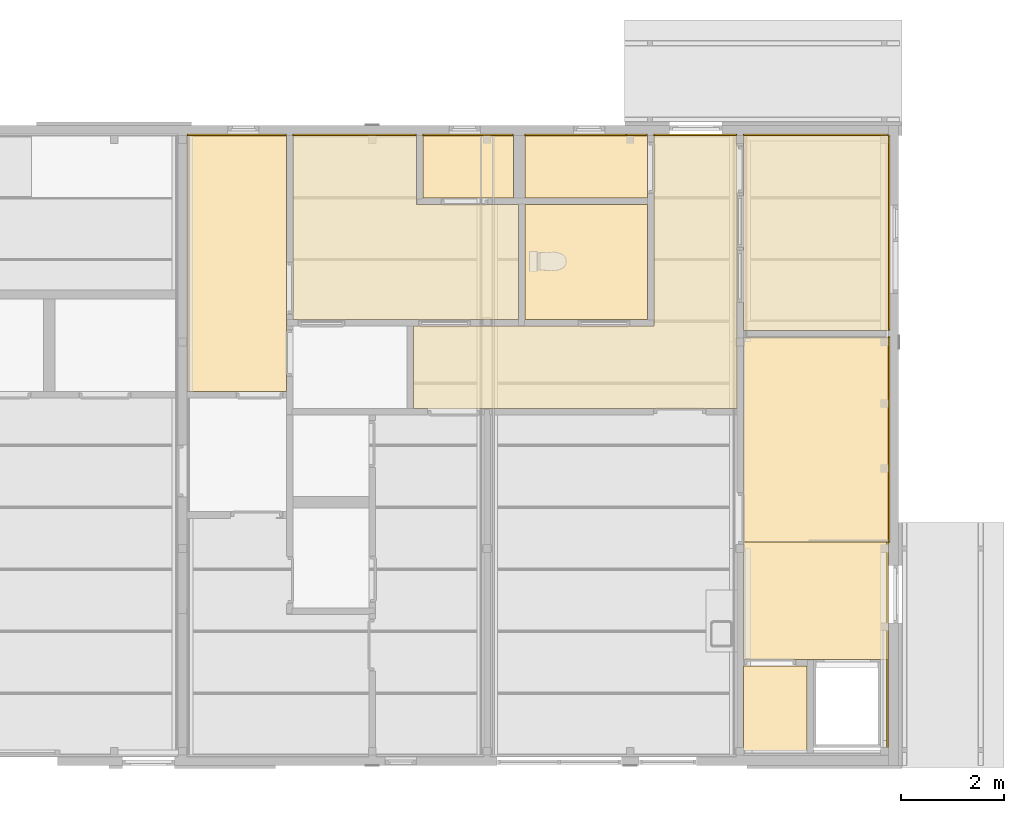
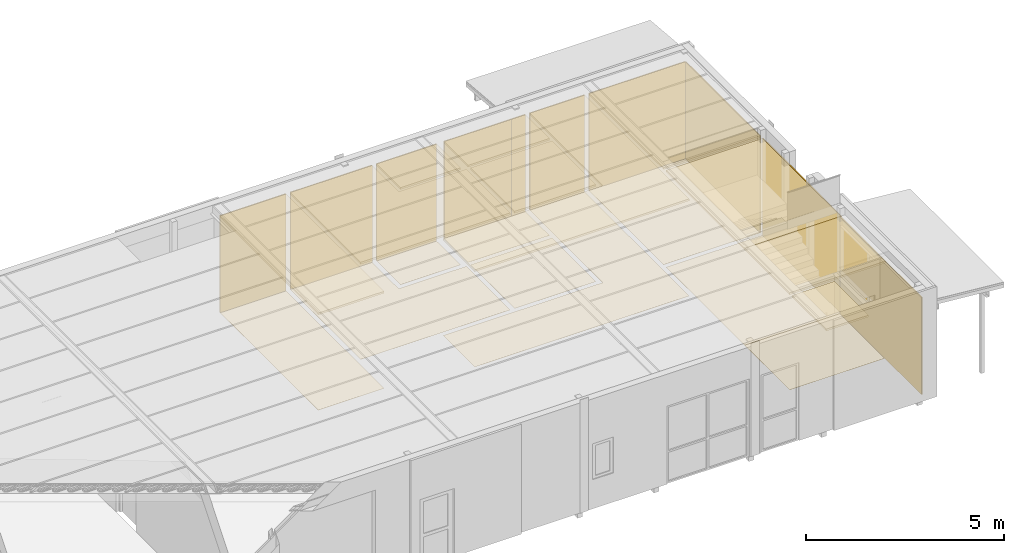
# One storey, part 40 of 45: 29 coverings.
"""IFC2X3 building model written with IfcOpenShell, lengths in millimetres."""

import ifcopenshell
import ifcopenshell.guid

model = None  # the IFC model being written
_history = None  # IfcOwnerHistory: only IFC2X3 demands one
_inside = {}  # id of a spatial element -> (the spatial element, [elements in it])
_under = {}  # id of a project, library or spatial element -> (it, [spatial elements below it])
_declared = {}  # id of a project -> (the project, [libraries it declares])
_typed = {}  # id of a type object -> (the type object, [elements of that type])
_made_of = {}  # id of a material, layer set ... -> (it, [elements and type objects made of it])


def new_model(schema):
    """Start an empty IFC model of exactly this schema.

    Asked for "IFC4X3", IfcOpenShell would pick the latest addendum, in which some entities
    have other attributes; the version numbers below select the first issue.
    IFC2X3 requires an IfcOwnerHistory on every rooted entity: one is made here for all.
    """
    global model, _history
    if schema == "IFC4X3":
        model = ifcopenshell.file(schema_version=(4, 3, 0, 0))
    else:
        model = ifcopenshell.file(schema=schema)
    _inside.clear()
    _under.clear()
    _declared.clear()
    _typed.clear()
    _made_of.clear()
    _history = None
    if model.schema == "IFC2X3":
        org = make("IfcOrganization", Name="unknown")
        user = make(
            "IfcPersonAndOrganization",
            ThePerson=make("IfcPerson", FamilyName="unknown"),
            TheOrganization=org,
        )
        app = make(
            "IfcApplication",
            ApplicationDeveloper=org,
            Version="unknown",
            ApplicationFullName="unknown",
            ApplicationIdentifier="unknown",
        )
        _history = make(
            "IfcOwnerHistory",
            OwningUser=user,
            OwningApplication=app,
            ChangeAction="ADDED",
            CreationDate=0,
        )
    return model


def make(cls, **values):
    """One entity of the class cls with the attributes given. An attribute that is None is left unset."""
    return model.create_entity(
        cls, **{name: value for name, value in values.items() if value is not None}
    )


def entity(cls, *values):
    """Any entity or typed value of the class cls, its attributes in the order of the schema. None: left unset."""
    e = model.create_entity(cls)
    for i, value in enumerate(values):
        if value is not None:
            e[i] = value
    return e


def rooted(cls, **values):
    """An entity with a GlobalId (a new one), such as an element, a storey or a relation."""
    return make(cls, GlobalId=ifcopenshell.guid.new(), OwnerHistory=_history, **values)


def si_unit(unit_type, name, prefix=None):
    """IfcSIUnit, for example si_unit("LENGTHUNIT", "METRE", prefix="MILLI")."""
    return make("IfcSIUnit", UnitType=unit_type, Prefix=prefix, Name=name)


def converted_unit(unit_type, name, factor, base, dimensions=None, offset=None):
    """IfcConversionBasedUnit, such as the inch: factor (a typed value) times the base unit."""
    return make(
        "IfcConversionBasedUnit"
        if offset is None
        else "IfcConversionBasedUnitWithOffset",
        ConversionOffset=offset,
        Dimensions=None
        if dimensions is None
        else entity("IfcDimensionalExponents", *dimensions),
        UnitType=unit_type,
        Name=name,
        ConversionFactor=make(
            "IfcMeasureWithUnit", ValueComponent=factor, UnitComponent=base
        ),
    )


def assignment(units):
    """IfcUnitAssignment: the units of a project."""
    return None if units is None else make("IfcUnitAssignment", Units=units)


def point(xyz):
    """IfcCartesianPoint."""
    return None if xyz is None else make("IfcCartesianPoint", Coordinates=xyz)


def direction(xyz):
    """IfcDirection."""
    return None if xyz is None else make("IfcDirection", DirectionRatios=xyz)


def frame(location, z_axis=None, x_axis=None):
    """IfcAxis2Placement3D, a coordinate frame: its origin and axes. An axis left out is left unset."""
    return make(
        "IfcAxis2Placement3D",
        Location=point(location),
        Axis=direction(z_axis),
        RefDirection=direction(x_axis),
    )


def frame_2d(location, x_axis=None):
    """IfcAxis2Placement2D, a coordinate frame in the plane: its origin and x axis."""
    return make(
        "IfcAxis2Placement2D", Location=point(location), RefDirection=direction(x_axis)
    )


def origin():
    """The frame at (0, 0, 0) with its axes left unset."""
    return frame((0.0, 0.0, 0.0))


def origin_with_axes():
    """The frame at (0, 0, 0) with the z axis (0, 0, 1) and the x axis (1, 0, 0) written out."""
    return frame((0.0, 0.0, 0.0), z_axis=(0.0, 0.0, 1.0), x_axis=(1.0, 0.0, 0.0))


def place(relative_to, where):
    """IfcLocalPlacement: puts the frame where relative to a parent placement (None: the world)."""
    return make(
        "IfcLocalPlacement", PlacementRelTo=relative_to, RelativePlacement=where
    )


def context(
    kind, dimensions, precision=None, world=None, true_north=None, identifier=None
):
    """IfcGeometricRepresentationContext, for example the 3D "Model" context."""
    return make(
        "IfcGeometricRepresentationContext",
        ContextIdentifier=identifier,
        ContextType=kind,
        CoordinateSpaceDimension=dimensions,
        Precision=precision,
        WorldCoordinateSystem=world,
        TrueNorth=true_north,
    )


def subcontext(parent, identifier, kind, view, scale=None):
    """IfcGeometricRepresentationSubContext, for example "Body" below "Model"."""
    return make(
        "IfcGeometricRepresentationSubContext",
        ContextIdentifier=identifier,
        ContextType=kind,
        ParentContext=parent,
        TargetScale=scale,
        TargetView=view,
    )


def project(units=None, contexts=None):
    """IfcProject with its units and contexts."""
    return rooted(
        "IfcProject",
        Name="project",
        RepresentationContexts=contexts,
        UnitsInContext=assignment(units),
    )


def spatial(cls, under=None, at=None, **own):
    """A site, building, storey or space (cls), placed at a placement, below another one or the project."""
    s = rooted(cls, ObjectPlacement=at, **own)
    if under is not None:
        _under.setdefault(under.id(), (under, []))[1].append(s)
    return s


def polyline(points):
    """IfcPolyline through the points."""
    return make("IfcPolyline", Points=[point(p) for p in points])


def profile(cls, at=None, kind="AREA", **sizes):
    """A parametric profile (cls). Its sizes go by their IFC names, for example OverallWidth=200.0."""
    return make(cls, ProfileType=kind, Position=at, **sizes)


def rectangle(**sizes):
    """IfcRectangleProfileDef."""
    return profile("IfcRectangleProfileDef", **sizes)


def outline(outer, holes=None, kind="AREA"):
    """IfcArbitraryClosedProfileDef: a profile drawn as a closed curve; with holes, ...WithVoids."""
    if holes is None:
        return make("IfcArbitraryClosedProfileDef", ProfileType=kind, OuterCurve=outer)
    return make(
        "IfcArbitraryProfileDefWithVoids",
        ProfileType=kind,
        OuterCurve=outer,
        InnerCurves=holes,
    )


def extrude(swept, where, along, depth):
    """IfcExtrudedAreaSolid: the profile swept, set in the frame where, extruded along a direction by depth."""
    return make(
        "IfcExtrudedAreaSolid",
        SweptArea=swept,
        Position=where,
        ExtrudedDirection=direction(along),
        Depth=depth,
    )


def shape(context_of_items, identifier, shape_type, items):
    """IfcShapeRepresentation: the items that make up one representation, for example the "Body"."""
    return make(
        "IfcShapeRepresentation",
        ContextOfItems=context_of_items,
        RepresentationIdentifier=identifier,
        RepresentationType=shape_type,
        Items=items,
    )


def material(Name=None, Category=None):
    """IfcMaterial."""
    return make("IfcMaterial", Name=Name, Category=Category)


def layer(
    of_material, thickness, ventilated=None, Name=None, Category=None, Priority=None
):
    """IfcMaterialLayer: one layer of a wall or slab, of a material (None: an air gap)."""
    return make(
        "IfcMaterialLayer",
        Material=of_material,
        LayerThickness=thickness,
        IsVentilated=ventilated,
        Name=Name,
        Category=Category,
        Priority=Priority,
    )


def layer_set(layers, Name=None):
    """IfcMaterialLayerSet."""
    return make("IfcMaterialLayerSet", MaterialLayers=layers, LayerSetName=Name)


def layer_usage(for_layer_set, set_direction, sense, offset, extent=None):
    """IfcMaterialLayerSetUsage: how a layer set lies in its element."""
    return make(
        "IfcMaterialLayerSetUsage",
        ForLayerSet=for_layer_set,
        LayerSetDirection=set_direction,
        DirectionSense=sense,
        OffsetFromReferenceLine=offset,
        ReferenceExtent=extent,
    )


def made_of(thing, what):
    """Note that an element or type object is made of a material, layer set ...; save() writes the relation."""
    if what is not None:
        _made_of.setdefault(what.id(), (what, []))[1].append(thing)
    return thing


def element(
    cls,
    number,
    at=None,
    inside=None,
    cuts=None,
    type_object=None,
    material=None,
    context=None,
    identifier="Body",
    shape_type=None,
    held_by="IfcProductDefinitionShape",
    body=None,
    shapes=None,
    **own,
):
    """One element of the class cls, such as IfcWall. Its Tag is "e" and its number.

    at: its placement. inside: the storey or other place that contains it. cuts: it is an
    opening in that element (IfcRelVoidsElement). A single representation is given by context,
    identifier, shape_type and body (its items); several are given by shapes. held_by: the class
    of the entity that holds the representations. save() writes the other relations.
    """
    e = rooted(cls, Tag="e%d" % number, ObjectPlacement=at, **own)
    if body is not None:
        shapes = [shape(context, identifier, shape_type, body)]
    if shapes is not None:
        e.Representation = make(held_by, Representations=shapes)
    if inside is not None:
        _inside.setdefault(inside.id(), (inside, []))[1].append(e)
    if cuts is not None:
        rooted(
            "IfcRelVoidsElement", RelatingBuildingElement=cuts, RelatedOpeningElement=e
        )
    if type_object is not None:
        _typed.setdefault(type_object.id(), (type_object, []))[1].append(e)
    return made_of(e, material)


def aggregate(whole, parts):
    """IfcRelAggregates: a whole, such as a stair, and the parts it consists of."""
    return rooted("IfcRelAggregates", RelatingObject=whole, RelatedObjects=parts)


def save(model, path):
    """Write the relations noted so far, then the file.

    IfcRelAggregates (storeys below a building ...), IfcRelContainedInSpatialStructure (elements
    in a storey), IfcRelDefinesByType, IfcRelAssociatesMaterial and IfcRelDeclares: one each for
    every whole, place, type object, material and project.
    """
    for whole, parts in _under.values():
        aggregate(whole, parts)
    for where, things in _inside.values():
        rooted(
            "IfcRelContainedInSpatialStructure",
            RelatedElements=things,
            RelatingStructure=where,
        )
    for kind, things in _typed.values():
        rooted("IfcRelDefinesByType", RelatedObjects=things, RelatingType=kind)
    for what, things in _made_of.values():
        rooted("IfcRelAssociatesMaterial", RelatedObjects=things, RelatingMaterial=what)
    for by, libraries in _declared.values():
        rooted("IfcRelDeclares", RelatingContext=by, RelatedDefinitions=libraries)
    model.write(path)


model = new_model("IFC2X3")

# Units and contexts
model_context = context("Model", 3, precision=1e-05, world=origin())
plan_context = context("Plan", 3, precision=1e-05, world=origin())
body_context = subcontext(model_context, "Body", "Model", "MODEL_VIEW")
ifc_project = project(units=[si_unit("LENGTHUNIT", "METRE", prefix="MILLI"), converted_unit("PLANEANGLEUNIT", "DEGREE", entity("IfcPlaneAngleMeasure", 0.0174532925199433), si_unit("PLANEANGLEUNIT", "RADIAN"), dimensions=[0, 0, 0, 0, 0, 0, 0]), si_unit("AREAUNIT", "SQUARE_METRE"), si_unit("VOLUMEUNIT", "CUBIC_METRE")], contexts=[model_context, plan_context])

# Building, storey, space
building_placement = place(None, origin())
building = spatial("IfcBuilding", under=ifc_project, at=building_placement, Name="HEKF Administrasjonbygg", CompositionType="ELEMENT")
storey_placement = place(building_placement, frame((0.0, 0.0, 6500.0), z_axis=(0.0, 0.0, 1.0), x_axis=(1.0, 0.0, 0.0)))
storey = spatial("IfcBuildingStorey", under=building, at=storey_placement, Name="Plan 1", CompositionType="ELEMENT", Elevation=6500.0)
space_1_placement = place(storey_placement, frame((27188.53680645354, -3774.000000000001, 0.0), z_axis=(0.0, 0.0, 1.0), x_axis=(1.0, 0.0, 0.0)))
space_1 = spatial("IfcSpace", under=storey, at=space_1_placement, Name="101", CompositionType="ELEMENT", InteriorOrExteriorSpace="INTERNAL")

# Coverings
ifc_material_1 = material(Name="Ubehandlet SW")
ifc_layer_1 = layer(ifc_material_1, 30.0)
ifc_layer_set_1 = layer_set([ifc_layer_1])
ifc_layer_usage_1 = layer_usage(ifc_layer_set_1, "AXIS3", "POSITIVE", 0.0)
covering_1_placement = place(space_1_placement, frame((2811.463193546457, 3774.000000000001, 0.0), z_axis=(0.0, 0.0, 1.0), x_axis=(0.0, -1.0, 0.0)))
element("IfcCovering", 1, at=covering_1_placement, inside=space_1, material=ifc_layer_usage_1, PredefinedType="CLADDING", context=body_context, shape_type="SweptSolid", body=[
    extrude(rectangle(XDim=3000.0, YDim=3774.000000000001, at=frame_2d((-1887.000000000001, 1500.0), x_axis=(0.0, 1.0))), frame((3774.000000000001, 0.0, 3000.0), z_axis=(0.0, 1.0, 0.0), x_axis=(1.0, 0.0, 0.0)), (0.0, 0.0, 1.0), 30.0),
])
ifc_material_2 = material(Name="Ubehandlet SW")
ifc_layer_2 = layer(ifc_material_2, 30.0)
ifc_layer_set_2 = layer_set([ifc_layer_2])
ifc_layer_usage_2 = layer_usage(ifc_layer_set_2, "AXIS3", "POSITIVE", 0.0)
covering_2_placement = place(space_1_placement, frame((0.0, 3774.000000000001, 0.0), z_axis=(0.0, 0.0, 1.0), x_axis=(1.0, 0.0, 0.0)))
element("IfcCovering", 2, at=covering_2_placement, inside=space_1, material=ifc_layer_usage_2, PredefinedType="CLADDING", context=body_context, shape_type="SweptSolid", body=[
    extrude(rectangle(XDim=3000.0, YDim=2811.463193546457, at=frame_2d((-1405.731596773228, 1500.0), x_axis=(0.0, 1.0))), frame((2811.463193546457, 0.0, 3000.0), z_axis=(0.0, 1.0, 0.0), x_axis=(1.0, 0.0, 0.0)), (0.0, 0.0, 1.0), 30.0),
])
ifc_material_3 = material(Name="Banebelegg, acustikk")
ifc_layer_3 = layer(ifc_material_3, 3.0)
ifc_layer_set_3 = layer_set([ifc_layer_3])
ifc_layer_usage_3 = layer_usage(ifc_layer_set_3, "AXIS3", "POSITIVE", 0.0)
covering_3_placement = place(space_1_placement, origin_with_axes())
element("IfcCovering", 3, at=covering_3_placement, inside=space_1, material=ifc_layer_usage_3, PredefinedType="FLOORING", context=body_context, shape_type="SweptSolid", body=[
    extrude(rectangle(XDim=2811.463193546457, YDim=3774.000000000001, at=frame_2d((-1405.731596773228, -1887.000000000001), x_axis=(-1.0, 0.0))), frame((2811.463193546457, 3774.000000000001, 0.0), z_axis=(0.0, 0.0, 1.0), x_axis=(1.0, 0.0, 0.0)), (0.0, 0.0, 1.0), 3.0),
])
ifc_material_4 = material(Name="Støvbinding")
ifc_layer_4 = layer(ifc_material_4, 30.0)
ifc_material_5 = material(Name="Systemhimling")
ifc_layer_5 = layer(ifc_material_5, 30.0)
ifc_layer_set_4 = layer_set([ifc_layer_4, ifc_layer_5])
ifc_layer_usage_4 = layer_usage(ifc_layer_set_4, "AXIS3", "POSITIVE", 0.0)
covering_4_placement = place(space_1_placement, frame((1405.731596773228, 1887.000000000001, 3000.0), z_axis=(0.0, 0.0, -1.0), x_axis=(1.0, 0.0, 0.0)))
element("IfcCovering", 4, at=covering_4_placement, inside=space_1, material=ifc_layer_usage_4, PredefinedType="CEILING", context=body_context, shape_type="SweptSolid", body=[
    extrude(rectangle(XDim=2811.463193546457, YDim=3774.000000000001, at=frame_2d((1405.731596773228, 1887.000000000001), x_axis=(1.0, 0.0))), frame((-1405.731596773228, -1887.000000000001, 0.0), z_axis=(0.0, 0.0, 1.0), x_axis=(1.0, 0.0, 0.0)), (0.0, 0.0, 1.0), 60.0),
])

# Space
space_2_placement = place(storey_placement, frame((22958.53680645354, -1211.0, 0.0), z_axis=(0.0, 0.0, 1.0), x_axis=(1.0, 0.0, 0.0)))
space_2 = spatial("IfcSpace", under=storey, at=space_2_placement, Name="107", CompositionType="ELEMENT", InteriorOrExteriorSpace="INTERNAL")

# Coverings
ifc_material_6 = material(Name="Ubehandlet SW")
ifc_layer_6 = layer(ifc_material_6, 30.0)
ifc_layer_set_5 = layer_set([ifc_layer_6])
ifc_layer_usage_5 = layer_usage(ifc_layer_set_5, "AXIS3", "POSITIVE", 0.0)
covering_5_placement = place(space_2_placement, frame((0.0, 1211.0, 0.0), z_axis=(0.0, 0.0, 1.0), x_axis=(1.0, 2.312513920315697e-16, 0.0)))
element("IfcCovering", 5, at=covering_5_placement, inside=space_2, material=ifc_layer_usage_5, PredefinedType="CLADDING", context=body_context, shape_type="SweptSolid", body=[
    extrude(rectangle(XDim=3000.0, YDim=1966.463193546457, at=frame_2d((-983.2315967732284, 1500.0), x_axis=(0.0, 1.0))), frame((1966.463193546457, 0.0, 3000.0), z_axis=(0.0, 1.0, 0.0), x_axis=(1.0, 0.0, 0.0)), (0.0, 0.0, 1.0), 30.0),
])
ifc_material_7 = material(Name="Ubehandlet SW")
ifc_layer_7 = layer(ifc_material_7, 30.0)
ifc_layer_set_6 = layer_set([ifc_layer_7])
ifc_layer_usage_6 = layer_usage(ifc_layer_set_6, "AXIS3", "POSITIVE", 0.0)
covering_6_placement = place(space_2_placement, frame((1966.463193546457, 1211.000000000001, 0.0), z_axis=(0.0, 0.0, 1.0), x_axis=(1.0, -1.115843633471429e-15, 0.0)))
element("IfcCovering", 6, at=covering_6_placement, inside=space_2, material=ifc_layer_usage_6, PredefinedType="CLADDING", context=body_context, shape_type="SweptSolid", body=[
    extrude(rectangle(XDim=3000.0, YDim=407.5368064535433, at=frame_2d((-203.7684032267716, 1500.0), x_axis=(0.0, 1.0))), frame((407.5368064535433, 0.0, 3000.0), z_axis=(0.0, 1.0, 0.0), x_axis=(1.0, 0.0, 0.0)), (0.0, 0.0, 1.0), 30.0),
])
ifc_material_8 = material(Name="våtromsbelegg m oppkant")
ifc_layer_8 = layer(ifc_material_8, 3.0)
ifc_layer_set_7 = layer_set([ifc_layer_8])
ifc_layer_usage_7 = layer_usage(ifc_layer_set_7, "AXIS3", "POSITIVE", 0.0)
covering_7_placement = place(space_2_placement, origin_with_axes())
element("IfcCovering", 7, at=covering_7_placement, inside=space_2, material=ifc_layer_usage_7, PredefinedType="FLOORING", context=body_context, shape_type="SweptSolid", body=[
    extrude(rectangle(XDim=2374.0, YDim=1211.0, at=frame_2d((-1187.0, -605.5), x_axis=(-1.0, 0.0))), frame((2374.0, 1211.0, 0.0), z_axis=(0.0, 0.0, 1.0), x_axis=(1.0, 0.0, 0.0)), (0.0, 0.0, 1.0), 3.0),
])
ifc_material_9 = material(Name="støvbinding")
ifc_layer_9 = layer(ifc_material_9, 30.0)
ifc_material_10 = material(Name="systemhimling")
ifc_layer_10 = layer(ifc_material_10, 30.0)
ifc_layer_set_8 = layer_set([ifc_layer_9, ifc_layer_10])
ifc_layer_usage_8 = layer_usage(ifc_layer_set_8, "AXIS3", "POSITIVE", 0.0)
covering_8_placement = place(space_2_placement, frame((1187.0, 605.5, 3000.0), z_axis=(0.0, 0.0, -1.0), x_axis=(1.0, 0.0, 0.0)))
element("IfcCovering", 8, at=covering_8_placement, inside=space_2, material=ifc_layer_usage_8, PredefinedType="CEILING", context=body_context, shape_type="SweptSolid", body=[
    extrude(rectangle(XDim=2374.0, YDim=1211.0, at=frame_2d((1187.0, 605.5), x_axis=(1.0, 0.0))), frame((-1187.0, -605.5, 0.0), z_axis=(0.0, 0.0, 1.0), x_axis=(1.0, 0.0, 0.0)), (0.0, 0.0, 1.0), 60.0),
])

# Space
space_3_placement = place(storey_placement, frame((22958.53680645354, -3561.0, 0.0), z_axis=(0.0, 0.0, 1.0), x_axis=(1.0, 0.0, 0.0)))
space_3 = spatial("IfcSpace", under=storey, at=space_3_placement, Name="108", CompositionType="ELEMENT", InteriorOrExteriorSpace="INTERNAL")

# Coverings
ifc_material_11 = material(Name="våtromsbelegg m oppkant")
ifc_layer_11 = layer(ifc_material_11, 3.0)
ifc_layer_set_9 = layer_set([ifc_layer_11])
ifc_layer_usage_9 = layer_usage(ifc_layer_set_9, "AXIS3", "POSITIVE", 0.0)
covering_9_placement = place(space_3_placement, origin_with_axes())
element("IfcCovering", 9, at=covering_9_placement, inside=space_3, material=ifc_layer_usage_9, PredefinedType="FLOORING", context=body_context, shape_type="SweptSolid", body=[
    extrude(rectangle(XDim=2374.0, YDim=2224.0, at=frame_2d((-1187.0, -1112.0), x_axis=(-1.0, 0.0))), frame((2374.0, 2224.0, 0.0), z_axis=(0.0, 0.0, 1.0), x_axis=(1.0, 0.0, 0.0)), (0.0, 0.0, 1.0), 3.0),
])
ifc_material_12 = material(Name="støvbinding")
ifc_layer_12 = layer(ifc_material_12, 30.0)
ifc_material_13 = material(Name="systemhimling")
ifc_layer_13 = layer(ifc_material_13, 30.0)
ifc_layer_set_10 = layer_set([ifc_layer_12, ifc_layer_13])
ifc_layer_usage_10 = layer_usage(ifc_layer_set_10, "AXIS3", "POSITIVE", 0.0)
covering_10_placement = place(space_3_placement, frame((1187.0, 1112.0, 3000.0), z_axis=(0.0, 0.0, -1.0), x_axis=(1.0, 0.0, 0.0)))
element("IfcCovering", 10, at=covering_10_placement, inside=space_3, material=ifc_layer_usage_10, PredefinedType="CEILING", context=body_context, shape_type="SweptSolid", body=[
    extrude(rectangle(XDim=2374.0, YDim=2224.0, at=frame_2d((1187.0, 1112.0), x_axis=(1.0, 0.0))), frame((-1187.0, -1112.0, 0.0), z_axis=(0.0, 0.0, 1.0), x_axis=(1.0, 0.0, 0.0)), (0.0, 0.0, 1.0), 60.0),
])

# Space
space_4_placement = place(storey_placement, frame((20981.20588481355, -1211.0, 0.0), z_axis=(0.0, 0.0, 1.0), x_axis=(1.0, 0.0, 0.0)))
space_4 = spatial("IfcSpace", under=storey, at=space_4_placement, Name="109", CompositionType="ELEMENT", InteriorOrExteriorSpace="INTERNAL")

# Coverings
ifc_material_14 = material(Name="Ubehandlet SW")
ifc_layer_14 = layer(ifc_material_14, 30.0)
ifc_layer_set_11 = layer_set([ifc_layer_14])
ifc_layer_usage_11 = layer_usage(ifc_layer_set_11, "AXIS3", "POSITIVE", 0.0)
covering_11_placement = place(space_4_placement, frame((0.0, 1211.000000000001, 0.0), z_axis=(0.0, 0.0, 1.0), x_axis=(1.0, -1.296809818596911e-16, 0.0)))
element("IfcCovering", 11, at=covering_11_placement, inside=space_4, material=ifc_layer_usage_11, PredefinedType="CLADDING", context=body_context, shape_type="SweptSolid", body=[
    extrude(rectangle(XDim=3000.0, YDim=1753.330921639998, at=frame_2d((-876.6654608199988, 1500.0), x_axis=(0.0, 1.0))), frame((1753.330921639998, 0.0, 3000.0), z_axis=(0.0, 1.0, 0.0), x_axis=(1.0, 0.0, 0.0)), (0.0, 0.0, 1.0), 30.0),
])
ifc_material_15 = material(Name="våtromsbelegg m oppkant")
ifc_layer_15 = layer(ifc_material_15, 3.0)
ifc_layer_set_12 = layer_set([ifc_layer_15])
ifc_layer_usage_12 = layer_usage(ifc_layer_set_12, "AXIS3", "POSITIVE", 0.0)
covering_12_placement = place(space_4_placement, frame((0.0, 2.273736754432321e-13, 0.0), z_axis=(0.0, 0.0, 1.0), x_axis=(1.0, 0.0, 0.0)))
element("IfcCovering", 12, at=covering_12_placement, inside=space_4, material=ifc_layer_usage_12, PredefinedType="FLOORING", context=body_context, shape_type="SweptSolid", body=[
    extrude(rectangle(XDim=1753.330921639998, YDim=1211.000000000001, at=frame_2d((-876.6654608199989, -605.5000000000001), x_axis=(-1.0, 1.296809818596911e-16))), frame((1753.330921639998, 1211.0, 0.0), z_axis=(0.0, 0.0, 1.0), x_axis=(1.0, 0.0, 0.0)), (0.0, 0.0, 1.0), 3.0),
])
ifc_material_16 = material(Name="støvbinding")
ifc_layer_16 = layer(ifc_material_16, 30.0)
ifc_material_17 = material(Name="systemhimling")
ifc_layer_17 = layer(ifc_material_17, 30.0)
ifc_layer_set_13 = layer_set([ifc_layer_16, ifc_layer_17])
ifc_layer_usage_13 = layer_usage(ifc_layer_set_13, "AXIS3", "POSITIVE", 0.0)
covering_13_placement = place(space_4_placement, frame((876.6654608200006, 605.5000000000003, 3000.0), z_axis=(0.0, 0.0, -1.0), x_axis=(1.0, 0.0, 0.0)))
element("IfcCovering", 13, at=covering_13_placement, inside=space_4, material=ifc_layer_usage_13, PredefinedType="CEILING", context=body_context, shape_type="SweptSolid", body=[
    extrude(rectangle(XDim=1753.330921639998, YDim=1211.000000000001, at=frame_2d((876.6654608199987, 605.5000000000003), x_axis=(1.0, 1.296809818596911e-16))), frame((-876.6654608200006, -605.5000000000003, 0.0), z_axis=(0.0, 0.0, 1.0), x_axis=(1.0, 0.0, 0.0)), (0.0, 0.0, 1.0), 60.0),
])

# Space
space_5_placement = place(storey_placement, frame((18463.0, -3561.0, 0.0), z_axis=(0.0, 0.0, 1.0), x_axis=(1.0, 0.0, 0.0)))
space_5 = spatial("IfcSpace", under=storey, at=space_5_placement, Name="110", CompositionType="ELEMENT", InteriorOrExteriorSpace="INTERNAL")

# Coverings
ifc_material_18 = material(Name="Ubehandlet SW")
ifc_layer_18 = layer(ifc_material_18, 30.0)
ifc_layer_set_14 = layer_set([ifc_layer_18])
ifc_layer_usage_14 = layer_usage(ifc_layer_set_14, "AXIS3", "POSITIVE", 0.0)
covering_14_placement = place(space_5_placement, frame((0.0, 3561.000000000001, 0.0), z_axis=(0.0, 0.0, 1.0), x_axis=(1.0, -9.504770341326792e-17, 0.0)))
element("IfcCovering", 14, at=covering_14_placement, inside=space_5, material=ifc_layer_usage_14, PredefinedType="CLADDING", context=body_context, shape_type="SweptSolid", body=[
    extrude(rectangle(XDim=3000.0, YDim=2392.205884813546, at=frame_2d((-1196.102942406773, 1500.0), x_axis=(0.0, 1.0))), frame((2392.205884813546, 0.0, 3000.0), z_axis=(0.0, 1.0, 0.0), x_axis=(1.0, 0.0, 0.0)), (0.0, 0.0, 1.0), 30.0),
])
ifc_material_19 = material(Name="våtromsbelegg m oppkant")
ifc_layer_19 = layer(ifc_material_19, 3.0)
ifc_layer_set_15 = layer_set([ifc_layer_19])
ifc_layer_usage_15 = layer_usage(ifc_layer_set_15, "AXIS3", "POSITIVE", 0.0)
covering_15_placement = place(space_5_placement, frame((0.0, 4.547473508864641e-13, 0.0), z_axis=(0.0, 0.0, 1.0), x_axis=(1.0, 0.0, 0.0)))
element("IfcCovering", 15, at=covering_15_placement, inside=space_5, material=ifc_layer_usage_15, PredefinedType="FLOORING", context=body_context, shape_type="SweptSolid", body=[
    extrude(outline(polyline([(2392.205884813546, 3561.0), (0.0, 3561.0), (0.0, 1.146365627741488), (2207.205884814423, 0.0), (4369.536806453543, -4.547473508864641e-13), (4369.536806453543, 2224.0), (2392.205884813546, 2224.0), (2392.205884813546, 3561.0)])), origin_with_axes(), (0.0, 0.0, 1.0), 3.0),
])
ifc_material_20 = material(Name="støvbinding")
ifc_layer_20 = layer(ifc_material_20, 30.0)
ifc_material_21 = material(Name="systemhimling")
ifc_layer_21 = layer(ifc_material_21, 30.0)
ifc_layer_set_16 = layer_set([ifc_layer_20, ifc_layer_21])
ifc_layer_usage_16 = layer_usage(ifc_layer_set_16, "AXIS3", "POSITIVE", 0.0)
covering_16_placement = place(space_5_placement, frame((2247.241609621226, 1653.020909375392, 3000.0), z_axis=(0.0, 0.0, -1.0), x_axis=(1.0, 0.0, 0.0)))
element("IfcCovering", 16, at=covering_16_placement, inside=space_5, material=ifc_layer_usage_16, PredefinedType="CEILING", context=body_context, shape_type="SweptSolid", body=[
    extrude(outline(polyline([(-2247.241609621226, -1907.979090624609), (144.9642751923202, -1907.979090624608), (144.9642751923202, -570.979090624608), (2122.295196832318, -570.979090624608), (2122.295196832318, 1653.020909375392), (-40.03572480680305, 1653.020909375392), (-2247.241609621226, 1651.87454374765), (-2247.241609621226, -1907.979090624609)])), origin_with_axes(), (0.0, 0.0, 1.0), 60.0),
])

# Space
space_6_placement = place(storey_placement, frame((27188.46262210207, -7873.560932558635, 0.0), z_axis=(0.0, 0.0, 1.0), x_axis=(1.0, 0.0, 0.0)))
space_6 = spatial("IfcSpace", under=storey, at=space_6_placement, Name="102", CompositionType="ELEMENT", InteriorOrExteriorSpace="INTERNAL")

# Coverings
ifc_material_22 = material(Name="Ubehandlet SW")
ifc_layer_22 = layer(ifc_material_22, 30.0)
ifc_layer_set_17 = layer_set([ifc_layer_22])
ifc_layer_usage_17 = layer_usage(ifc_layer_set_17, "AXIS3", "POSITIVE", 0.0)
covering_17_placement = place(space_6_placement, frame((2811.53737789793, 3973.560932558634, 0.0), z_axis=(0.0, 0.0, 1.0), x_axis=(0.0, -1.0, 0.0)))
element("IfcCovering", 17, at=covering_17_placement, inside=space_6, material=ifc_layer_usage_17, PredefinedType="CLADDING", context=body_context, shape_type="SweptSolid", body=[
    extrude(rectangle(XDim=3000.0, YDim=3973.560932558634, at=frame_2d((-1986.780466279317, 1500.0), x_axis=(0.0, 1.0))), frame((3973.560932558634, 0.0, 3000.0), z_axis=(0.0, 1.0, 0.0), x_axis=(1.0, 0.0, 0.0)), (0.0, 0.0, 1.0), 30.0),
])
ifc_material_23 = material(Name="Golvflis")
ifc_layer_23 = layer(ifc_material_23, 3.0)
ifc_layer_set_18 = layer_set([ifc_layer_23])
ifc_layer_usage_18 = layer_usage(ifc_layer_set_18, "AXIS3", "POSITIVE", 0.0)
covering_18_placement = place(space_6_placement, origin_with_axes())
element("IfcCovering", 18, at=covering_18_placement, inside=space_6, material=ifc_layer_usage_18, PredefinedType="FLOORING", context=body_context, shape_type="SweptSolid", body=[
    extrude(outline(polyline([(0.1003949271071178, 2585.350858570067), (0.07418435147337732, 2582.560932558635), (0.0, 0.0), (2811.53737789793, 0.0), (2811.53737789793, 3973.560932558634), (0.07418435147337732, 3973.560932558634), (0.07418435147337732, 2585.350858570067), (0.1003949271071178, 2585.350858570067)])), origin_with_axes(), (0.0, 0.0, 1.0), 3.0),
])
ifc_material_24 = material(Name="Støvbinding")
ifc_layer_24 = layer(ifc_material_24, 30.0)
ifc_material_25 = material(Name="Systemhimling")
ifc_layer_25 = layer(ifc_material_25, 30.0)
ifc_layer_set_19 = layer_set([ifc_layer_24, ifc_layer_25])
ifc_layer_usage_19 = layer_usage(ifc_layer_set_19, "AXIS3", "POSITIVE", 0.0)
covering_19_placement = place(space_6_placement, frame((803.3425291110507, 2242.912073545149, 3000.0), z_axis=(0.0, 0.0, -1.0), x_axis=(1.0, 0.0, 0.0)))
element("IfcCovering", 19, at=covering_19_placement, inside=space_6, material=ifc_layer_usage_19, PredefinedType="CEILING", context=body_context, shape_type="SweptSolid", body=[
    extrude(outline(polyline([(-803.2683447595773, -339.6488590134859), (-803.2421341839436, -342.4387850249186), (-803.2683447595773, -342.4387850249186), (-803.2683447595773, -1730.648859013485), (2008.194848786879, -1730.648859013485), (2008.194848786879, 2242.912073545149), (-803.3425291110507, 2242.912073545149), (-803.2683447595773, -339.6488590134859)])), origin_with_axes(), (0.0, 0.0, 1.0), 60.0),
])

# Space
space_7_placement = place(storey_placement, frame((16413.0, -4961.000000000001, 0.0), z_axis=(0.0, 0.0, 1.0), x_axis=(1.0, 0.0, 0.0)))
space_7 = spatial("IfcSpace", under=storey, at=space_7_placement, Name="112", CompositionType="ELEMENT", InteriorOrExteriorSpace="INTERNAL")

# Coverings
ifc_material_26 = material(Name="Ubehandlet SW")
ifc_layer_26 = layer(ifc_material_26, 30.0)
ifc_layer_set_20 = layer_set([ifc_layer_26])
ifc_layer_usage_20 = layer_usage(ifc_layer_set_20, "AXIS3", "POSITIVE", 0.0)
covering_20_placement = place(space_7_placement, frame((0.0, 4961.000000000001, 0.0), z_axis=(0.0, 0.0, 1.0), x_axis=(1.0, 2.437412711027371e-16, 0.0)))
element("IfcCovering", 20, at=covering_20_placement, inside=space_7, material=ifc_layer_usage_20, PredefinedType="CLADDING", context=body_context, shape_type="SweptSolid", body=[
    extrude(rectangle(XDim=3000.0, YDim=1924.0, at=frame_2d((-962.0, 1500.0), x_axis=(0.0, 1.0))), frame((1924.0, 0.0, 3000.0), z_axis=(0.0, 1.0, 0.0), x_axis=(1.0, 0.0, 0.0)), (0.0, 0.0, 1.0), 30.0),
])
ifc_material_27 = material(Name="våtromsbelegg m oppkant")
ifc_layer_27 = layer(ifc_material_27, 3.0)
ifc_layer_set_21 = layer_set([ifc_layer_27])
ifc_layer_usage_21 = layer_usage(ifc_layer_set_21, "AXIS3", "POSITIVE", 0.0)
covering_21_placement = place(space_7_placement, origin_with_axes())
element("IfcCovering", 21, at=covering_21_placement, inside=space_7, material=ifc_layer_usage_21, PredefinedType="FLOORING", context=body_context, shape_type="SweptSolid", body=[
    extrude(rectangle(XDim=1924.0, YDim=4961.000000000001, at=frame_2d((-962.0, -2480.500000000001), x_axis=(-1.0, 0.0))), frame((1924.0, 4961.000000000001, 0.0), z_axis=(0.0, 0.0, 1.0), x_axis=(1.0, 0.0, 0.0)), (0.0, 0.0, 1.0), 3.0),
])
ifc_material_28 = material(Name="støvbinding")
ifc_layer_28 = layer(ifc_material_28, 30.0)
ifc_material_29 = material(Name="systemhimling")
ifc_layer_29 = layer(ifc_material_29, 30.0)
ifc_layer_set_22 = layer_set([ifc_layer_28, ifc_layer_29])
ifc_layer_usage_22 = layer_usage(ifc_layer_set_22, "AXIS3", "POSITIVE", 0.0)
covering_22_placement = place(space_7_placement, frame((962.0, 2480.500000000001, 3000.0), z_axis=(0.0, 0.0, -1.0), x_axis=(1.0, 0.0, 0.0)))
element("IfcCovering", 22, at=covering_22_placement, inside=space_7, material=ifc_layer_usage_22, PredefinedType="CEILING", context=body_context, shape_type="SweptSolid", body=[
    extrude(rectangle(XDim=1924.0, YDim=4961.000000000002, at=frame_2d((962.0000000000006, 2480.500000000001), x_axis=(1.0, -2.363551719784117e-16))), frame((-962.0, -2480.500000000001, 0.0), z_axis=(0.0, 0.0, 1.0), x_axis=(1.0, 0.0, 0.0)), (0.0, 0.0, 1.0), 60.0),
])

# Space
space_8_placement = place(storey_placement, frame((27188.46262210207, -10150.0, 0.0), z_axis=(0.0, 0.0, 1.0), x_axis=(1.0, 0.0, 0.0)))
space_8 = spatial("IfcSpace", under=storey, at=space_8_placement, Name="103.1", CompositionType="ELEMENT", InteriorOrExteriorSpace="INTERNAL")

# Coverings
ifc_material_30 = material(Name="Ubehandlet SW")
ifc_layer_30 = layer(ifc_material_30, 30.0)
ifc_layer_set_23 = layer_set([ifc_layer_30])
ifc_layer_usage_23 = layer_usage(ifc_layer_set_23, "AXIS3", "POSITIVE", 0.0)
covering_23_placement = place(space_8_placement, frame((2811.53737789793, -1849.999999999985, 0.0), z_axis=(0.0, 0.0, 1.0), x_axis=(0.0, 1.0, 0.0)))
element("IfcCovering", 23, at=covering_23_placement, inside=space_8, material=ifc_layer_usage_23, PredefinedType="CLADDING", context=body_context, shape_type="SweptSolid", body=[
    extrude(rectangle(XDim=3000.0, YDim=4126.439067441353, at=frame_2d((-2063.219533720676, 1500.0), x_axis=(0.0, 1.0))), frame((4126.439067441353, 0.0, 3000.0), z_axis=(0.0, 1.0, 0.0), x_axis=(1.0, 0.0, 0.0)), (0.0, 0.0, 1.0), 30.0),
])
ifc_material_31 = material(Name="Golvflis")
ifc_layer_31 = layer(ifc_material_31, 3.0)
ifc_layer_set_24 = layer_set([ifc_layer_31])
ifc_layer_usage_24 = layer_usage(ifc_layer_set_24, "AXIS3", "POSITIVE", 0.0)
covering_24_placement = place(space_8_placement, origin_with_axes())
element("IfcCovering", 24, at=covering_24_placement, inside=space_8, material=ifc_layer_usage_24, PredefinedType="FLOORING", context=body_context, shape_type="SweptSolid", body=[
    extrude(outline(polyline([(2811.53737789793, 2276.439067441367), (0.0, 2276.439067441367), (0.07418435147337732, 2273.999999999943), (0.07418435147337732, 0.0), (2811.53737789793, 0.0), (2811.53737789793, 2276.439067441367)])), origin_with_axes(), (0.0, 0.0, 1.0), 3.0),
])
ifc_material_32 = material(Name="Støvbinding")
ifc_layer_32 = layer(ifc_material_32, 30.0)
ifc_material_33 = material(Name="Systemhimling")
ifc_layer_33 = layer(ifc_material_33, 30.0)
ifc_layer_set_25 = layer_set([ifc_layer_32, ifc_layer_33])
ifc_layer_usage_25 = layer_usage(ifc_layer_set_25, "AXIS3", "POSITIVE", 0.0)
covering_25_placement = place(space_8_placement, frame((1124.64462489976, 1365.375626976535, 3000.0), z_axis=(0.0, 0.0, -1.0), x_axis=(1.0, 0.0, 0.0)))
element("IfcCovering", 25, at=covering_25_placement, inside=space_8, material=ifc_layer_usage_25, PredefinedType="CEILING", context=body_context, shape_type="SweptSolid", body=[
    extrude(outline(polyline([(-1124.64462489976, -911.0634404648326), (1686.89275299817, -911.0634404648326), (1686.89275299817, 1365.375626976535), (-1124.570440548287, 1365.375626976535), (-1124.570440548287, -908.6243730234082), (-1124.64462489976, -911.0634404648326)])), origin_with_axes(), (0.0, 0.0, 1.0), 60.0),
])

# Space
space_9_placement = place(storey_placement, frame((27188.53680645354, -12000.0, 0.0), z_axis=(0.0, 0.0, 1.0), x_axis=(1.0, 0.0, 0.0)))
space_9 = spatial("IfcSpace", under=storey, at=space_9_placement, Name="104", CompositionType="ELEMENT", InteriorOrExteriorSpace="INTERNAL")

# Covering
ifc_material_34 = material(Name="Støvbinding")
ifc_layer_34 = layer(ifc_material_34, 30.0)
ifc_material_35 = material(Name="Systemhimling")
ifc_layer_35 = layer(ifc_material_35, 30.0)
ifc_layer_set_26 = layer_set([ifc_layer_34, ifc_layer_35])
ifc_layer_usage_26 = layer_usage(ifc_layer_set_26, "AXIS3", "POSITIVE", 0.0)
covering_26_placement = place(space_9_placement, frame((617.7315967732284, 862.0, 3000.0), z_axis=(0.0, 0.0, -1.0), x_axis=(1.0, 0.0, 0.0)))
element("IfcCovering", 26, at=covering_26_placement, inside=space_9, material=ifc_layer_usage_26, PredefinedType="CEILING", context=body_context, shape_type="SweptSolid", body=[
    extrude(rectangle(XDim=1723.999999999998, YDim=1235.463193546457, at=frame_2d((617.7315967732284, -861.9999999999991), x_axis=(0.0, -1.0))), frame((-617.7315967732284, 862.0, 0.0), z_axis=(0.0, 0.0, 1.0), x_axis=(1.0, 0.0, 0.0)), (0.0, 0.0, 1.0), 60.0),
])

# Space
space_10_placement = place(storey_placement, frame((20796.20588481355, -5291.0, 0.0), z_axis=(0.0, 0.0, 1.0), x_axis=(1.0, 0.0, 0.0)))
space_10 = spatial("IfcSpace", under=storey, at=space_10_placement, Name="106", CompositionType="ELEMENT", InteriorOrExteriorSpace="INTERNAL")

# Coverings
ifc_material_36 = material(Name="Ubehandlet SW")
ifc_layer_36 = layer(ifc_material_36, 30.0)
ifc_layer_set_27 = layer_set([ifc_layer_36])
ifc_layer_usage_27 = layer_usage(ifc_layer_set_27, "AXIS3", "POSITIVE", 0.0)
covering_27_placement = place(space_10_placement, frame((4662.330921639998, 5291.0, 0.0), z_axis=(0.0, 0.0, 1.0), x_axis=(1.0, 0.0, 0.0)))
element("IfcCovering", 27, at=covering_27_placement, inside=space_10, material=ifc_layer_usage_27, PredefinedType="CLADDING", context=body_context, shape_type="SweptSolid", body=[
    extrude(rectangle(XDim=3000.0, YDim=1604.0, at=frame_2d((-802.0, 1500.0), x_axis=(0.0, 1.0))), frame((1604.0, 0.0, 3000.0), z_axis=(0.0, 1.0, 0.0), x_axis=(1.0, 0.0, 0.0)), (0.0, 0.0, 1.0), 30.0),
])
ifc_material_37 = material(Name="Banebelegg, homogent")
ifc_layer_37 = layer(ifc_material_37, 3.0)
ifc_layer_set_28 = layer_set([ifc_layer_37])
ifc_layer_usage_28 = layer_usage(ifc_layer_set_28, "AXIS3", "POSITIVE", 0.0)
covering_28_placement = place(space_10_placement, origin_with_axes())
element("IfcCovering", 28, at=covering_28_placement, inside=space_10, material=ifc_layer_usage_28, PredefinedType="FLOORING", context=body_context, shape_type="SweptSolid", body=[
    extrude(outline(polyline([(6266.330921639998, 5291.0), (4662.330921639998, 5291.0), (4662.330921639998, 1604.0), (0.0, 1604.000000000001), (0.0, 0.0), (6266.330921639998, 0.0), (6266.330921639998, 5291.0)])), origin_with_axes(), (0.0, 0.0, 1.0), 3.0),
])
ifc_material_38 = material(Name="Støvbinding")
ifc_layer_38 = layer(ifc_material_38, 30.0)
ifc_material_39 = material(Name="Systemhimling")
ifc_layer_39 = layer(ifc_material_39, 30.0)
ifc_layer_set_29 = layer_set([ifc_layer_38, ifc_layer_39])
ifc_layer_usage_29 = layer_usage(ifc_layer_set_29, "AXIS3", "POSITIVE", 0.0)
covering_29_placement = place(space_10_placement, frame((3642.887281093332, 2298.333333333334, 3000.0), z_axis=(0.0, 0.0, -1.0), x_axis=(1.0, 0.0, 0.0)))
element("IfcCovering", 29, at=covering_29_placement, inside=space_10, material=ifc_layer_usage_29, PredefinedType="CEILING", context=body_context, shape_type="SweptSolid", body=[
    extrude(outline(polyline([(1019.443640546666, -2992.666666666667), (2623.443640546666, -2992.666666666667), (2623.443640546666, 2298.333333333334), (-3642.887281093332, 2298.333333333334), (-3642.887281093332, 694.333333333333), (1019.443640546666, 694.3333333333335), (1019.443640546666, -2992.666666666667)])), origin_with_axes(), (0.0, 0.0, 1.0), 60.0),
])

save(model, "model.ifc")
